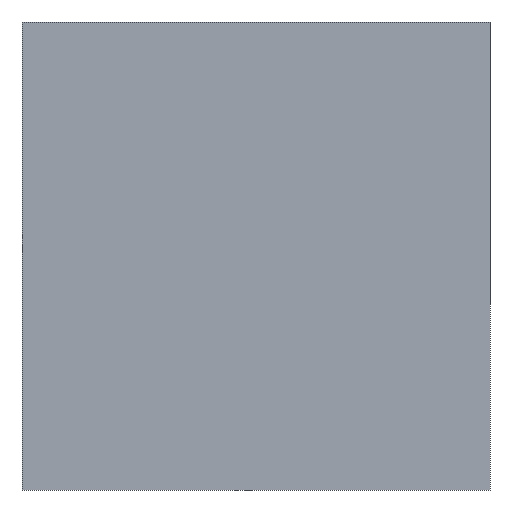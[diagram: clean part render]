
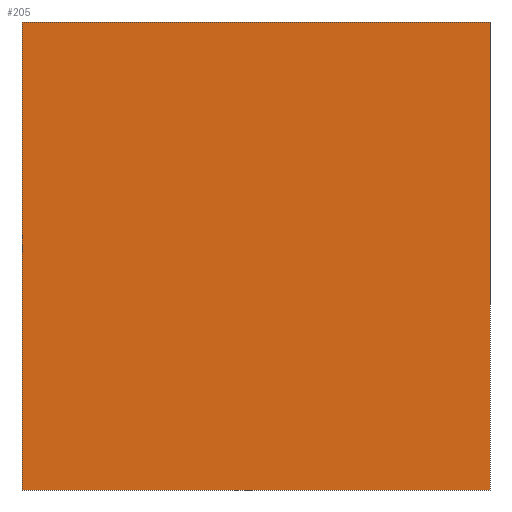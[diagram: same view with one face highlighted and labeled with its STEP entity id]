
A CAD part, front view. The second image highlights one B-rep face of the part: STEP entity #205.
In plain terms, the highlighted planar face has unit normal (0, -1, 0).
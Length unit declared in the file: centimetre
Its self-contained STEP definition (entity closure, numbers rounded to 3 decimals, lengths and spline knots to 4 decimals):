
#27 = AXIS2_PLACEMENT_3D ( 'NONE', #47, #599, #363 ) ;
#42 = LINE ( 'NONE', #163, #421 ) ;
#47 = CARTESIAN_POINT ( 'NONE',  ( 0., 0., 1000. ) ) ;
#48 = EDGE_CURVE ( 'NONE', #339, #548, #469, .T. ) ;
#81 = ORIENTED_EDGE ( 'NONE', *, *, #244, .F. ) ;
#157 = VERTEX_POINT ( 'NONE', #263 ) ;
#162 = EDGE_CURVE ( 'NONE', #157, #548, #488, .T. ) ;
#163 = CARTESIAN_POINT ( 'NONE',  ( 0., 0., 1000. ) ) ;
#171 = FACE_OUTER_BOUND ( 'NONE', #577, .T. ) ;
#182 = CARTESIAN_POINT ( 'NONE',  ( 1000., 0., 1000. ) ) ;
#205 = ADVANCED_FACE ( 'NONE', ( #171 ), #359, .F. ) ;
#219 = CARTESIAN_POINT ( 'NONE',  ( 0., 0., 0. ) ) ;
#237 = VERTEX_POINT ( 'NONE', #467 ) ;
#238 = CARTESIAN_POINT ( 'NONE',  ( 1000., 0., 1000. ) ) ;
#244 = EDGE_CURVE ( 'NONE', #237, #339, #370, .T. ) ;
#256 = DIRECTION ( 'NONE',  ( 1., 0., 0. ) ) ;
#263 = CARTESIAN_POINT ( 'NONE',  ( 0., 0., 0. ) ) ;
#286 = CARTESIAN_POINT ( 'NONE',  ( 1000., 0., 0. ) ) ;
#339 = VERTEX_POINT ( 'NONE', #238 ) ;
#346 = DIRECTION ( 'NONE',  ( 0., 0., -1. ) ) ;
#359 = PLANE ( 'NONE',  #27 ) ;
#360 = VECTOR ( 'NONE', #384, 100. ) ;
#363 = DIRECTION ( 'NONE',  ( 0., 0., 1. ) ) ;
#365 = DIRECTION ( 'NONE',  ( 0., 0., -1. ) ) ;
#370 = LINE ( 'NONE', #561, #360 ) ;
#384 = DIRECTION ( 'NONE',  ( 1., 0., 0. ) ) ;
#396 = ORIENTED_EDGE ( 'NONE', *, *, #48, .F. ) ;
#421 = VECTOR ( 'NONE', #346, 100. ) ;
#437 = VECTOR ( 'NONE', #365, 100. ) ;
#441 = EDGE_CURVE ( 'NONE', #237, #157, #42, .T. ) ;
#457 = VECTOR ( 'NONE', #256, 100. ) ;
#467 = CARTESIAN_POINT ( 'NONE',  ( 0., 0., 1000. ) ) ;
#469 = LINE ( 'NONE', #182, #437 ) ;
#488 = LINE ( 'NONE', #219, #457 ) ;
#548 = VERTEX_POINT ( 'NONE', #286 ) ;
#561 = CARTESIAN_POINT ( 'NONE',  ( 0., 0., 1000. ) ) ;
#577 = EDGE_LOOP ( 'NONE', ( #593, #396, #81, #588 ) ) ;
#588 = ORIENTED_EDGE ( 'NONE', *, *, #441, .T. ) ;
#593 = ORIENTED_EDGE ( 'NONE', *, *, #162, .T. ) ;
#599 = DIRECTION ( 'NONE',  ( 0., 1., 0. ) ) ;
